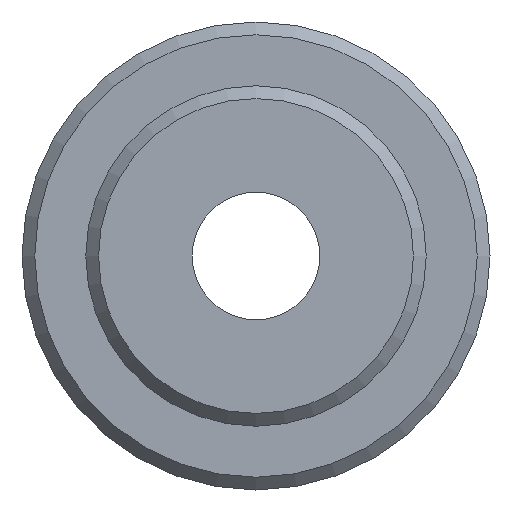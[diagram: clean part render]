
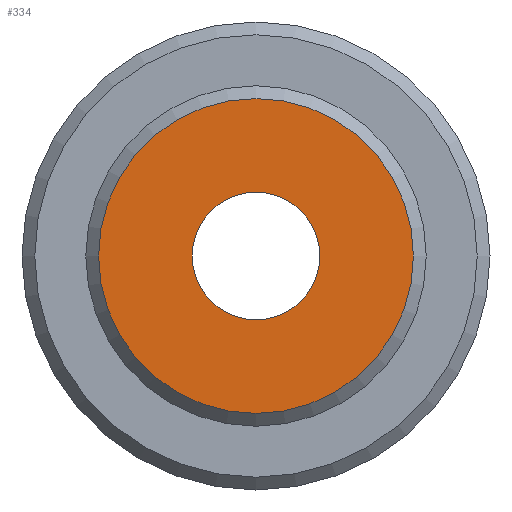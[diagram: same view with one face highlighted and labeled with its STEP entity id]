
A CAD part, front view. The second image highlights one B-rep face of the part: STEP entity #334.
In plain terms, the highlighted planar face has unit normal (0, -1, 0).
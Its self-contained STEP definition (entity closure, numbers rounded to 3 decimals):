
#22=FACE_BOUND('',#109,.T.);
#29=PLANE('',#411);
#82=FACE_OUTER_BOUND('',#108,.T.);
#108=EDGE_LOOP('',(#299));
#109=EDGE_LOOP('',(#300));
#127=CIRCLE('',#377,1.5);
#147=CIRCLE('',#409,3.7);
#158=VERTEX_POINT('',#567);
#177=VERTEX_POINT('',#625);
#192=EDGE_CURVE('',#158,#158,#127,.T.);
#219=EDGE_CURVE('',#177,#177,#147,.T.);
#299=ORIENTED_EDGE('',*,*,#219,.F.);
#300=ORIENTED_EDGE('',*,*,#192,.T.);
#334=ADVANCED_FACE('',(#82,#22),#29,.T.);
#377=AXIS2_PLACEMENT_3D('',#569,#451,#452);
#409=AXIS2_PLACEMENT_3D('',#627,#522,#523);
#411=AXIS2_PLACEMENT_3D('',#630,#527,#528);
#451=DIRECTION('center_axis',(0.,1.,0.));
#452=DIRECTION('ref_axis',(1.,0.,0.));
#522=DIRECTION('center_axis',(0.,1.,0.));
#523=DIRECTION('ref_axis',(-1.,0.,0.));
#527=DIRECTION('center_axis',(0.,-1.,0.));
#528=DIRECTION('ref_axis',(0.,0.,-1.));
#567=CARTESIAN_POINT('',(-1.5,0.,0.));
#569=CARTESIAN_POINT('Origin',(0.,0.,0.));
#625=CARTESIAN_POINT('',(3.7,0.,0.));
#627=CARTESIAN_POINT('Origin',(0.,0.,0.));
#630=CARTESIAN_POINT('Origin',(4.,0.,0.));
